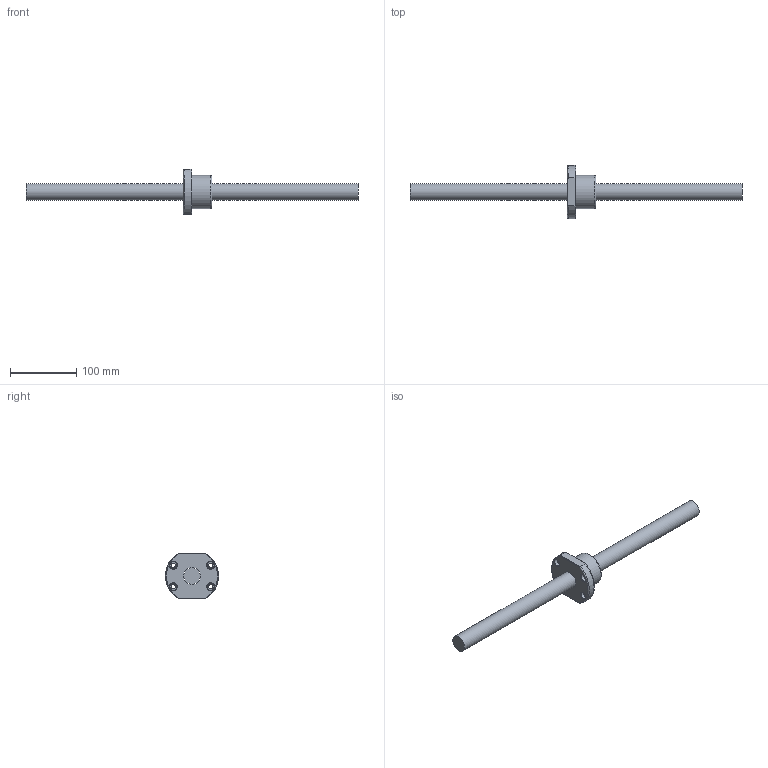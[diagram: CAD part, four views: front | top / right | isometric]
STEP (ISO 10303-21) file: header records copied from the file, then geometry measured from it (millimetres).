
FILE_DESCRIPTION (( 'STEP AP203' ), '1' );
FILE_NAME ('SFK02502.step', '2024-05-30T08:11:22', ( '' ), ( '' ), 'SwSTEP 2.0', 'SolidWorks 2022', '' );
FILE_SCHEMA (( 'CONFIG_CONTROL_DESIGN' ));
Length unit declared in the file: millimetre
Products named in the file (1): SFK02502
Bounding box: 500 x 80 x 68 mm (x, y, z)
Volume: 339320.9 mm3; surface area: 60991.7 mm2
Topology: 2 solids, 2 shells, 57 faces, 155 edges, 102 vertices
Faces by surface type: cylinder 22, plane 16, cone 9, bspline 5, torus 5
Full cylindrical faces by diameter (mm): 4 x1, 5 x6, 6.5 x4, 10.5 x4, 25 x1, 25.6 x1, 50 x1
Entity records: 3268 total; most frequent: CARTESIAN_POINT 2167, DIRECTION 200, ORIENTED_EDGE 186, EDGE_CURVE 93, AXIS2_PLACEMENT_3D 92, EDGE_LOOP 87, VERTEX_POINT 72, FACE_OUTER_BOUND 65
